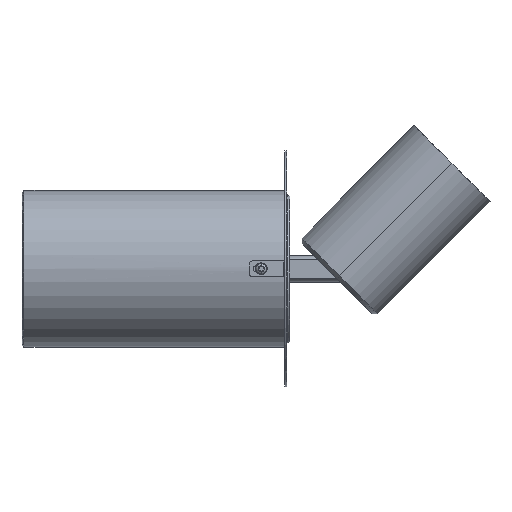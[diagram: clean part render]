
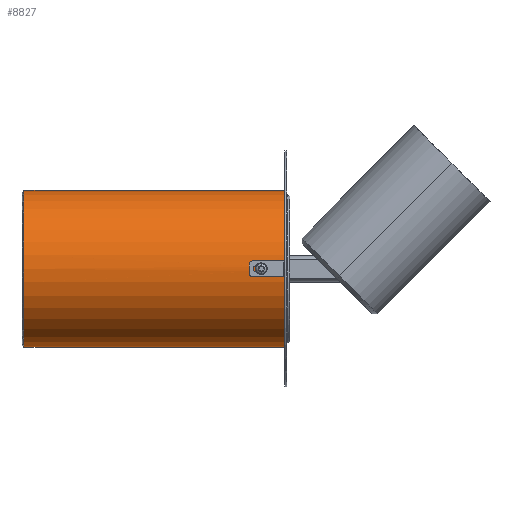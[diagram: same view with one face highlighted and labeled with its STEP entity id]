
A CAD part, left-side view. The second image highlights one B-rep face of the part: STEP entity #8827.
In plain terms, the highlighted cylindrical face has radius 39.9 mm (diameter 79.8 mm), a partial arc.
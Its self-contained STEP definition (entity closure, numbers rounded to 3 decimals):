
#423 = CIRCLE ( 'NONE', #10505, 39.9 ) ;
#575 = CARTESIAN_POINT ( 'NONE',  ( 39.881, 12.328, 1.217 ) ) ;
#630 = CARTESIAN_POINT ( 'NONE',  ( 39.888, 12.768, 1. ) ) ;
#694 = CARTESIAN_POINT ( 'NONE',  ( 39.882, 11.675, 1.21 ) ) ;
#784 = LINE ( 'NONE', #4102, #2298 ) ;
#813 = VERTEX_POINT ( 'NONE', #10591 ) ;
#908 = CARTESIAN_POINT ( 'NONE',  ( 39.88, 12., 1.25 ) ) ;
#1079 = CARTESIAN_POINT ( 'NONE',  ( 0., 0., 39.9 ) ) ;
#1289 = ORIENTED_EDGE ( 'NONE', *, *, #1375, .F. ) ;
#1375 = EDGE_CURVE ( 'NONE', #6817, #2150, #784, .T. ) ;
#1397 = CARTESIAN_POINT ( 'NONE',  ( 39.88, 12.163, 1.25 ) ) ;
#1456 = CARTESIAN_POINT ( 'NONE',  ( 39.893, 10.999, 0.767 ) ) ;
#1522 = CARTESIAN_POINT ( 'NONE',  ( 39.895, 10.908, -0.629 ) ) ;
#1531 = CARTESIAN_POINT ( 'NONE',  ( 0., 0., -39.9 ) ) ;
#1649 = ORIENTED_EDGE ( 'NONE', *, *, #8541, .T. ) ;
#1665 = AXIS2_PLACEMENT_3D ( 'NONE', #3290, #4901, #2478 ) ;
#1702 = ORIENTED_EDGE ( 'NONE', *, *, #9633, .F. ) ;
#1840 = CARTESIAN_POINT ( 'NONE',  ( 0., 132.8, 0. ) ) ;
#2150 = VERTEX_POINT ( 'NONE', #1531 ) ;
#2224 = CARTESIAN_POINT ( 'NONE',  ( 39.893, 12.999, 0.769 ) ) ;
#2275 = CARTESIAN_POINT ( 'NONE',  ( 39.895, 13.085, -0.625 ) ) ;
#2298 = VECTOR ( 'NONE', #9006, 1000. ) ;
#2342 = B_SPLINE_CURVE_WITH_KNOTS ( 'NONE', 3,
 ( #9843, #7445, #5587, #10714, #5701, #4120, #1522, #8037, #4869, #3156, #8911, #8147, #1456, #3206, #3963, #4917, #694, #3262, #4768, #3065 ),
 .UNSPECIFIED., .F., .F.,
 ( 4, 2, 2, 2, 2, 2, 2, 2, 2, 4 ),
 ( 0., 0., 0.001, 0.001, 0.002, 0.002, 0.003, 0.003, 0.004, 0.004 ),
 .UNSPECIFIED. ) ;
#2478 = DIRECTION ( 'NONE',  ( 0., 0., -1. ) ) ;
#2760 = LINE ( 'NONE', #3724, #8946 ) ;
#2816 = CARTESIAN_POINT ( 'NONE',  ( 0., 132.8, -39.9 ) ) ;
#2985 = CARTESIAN_POINT ( 'NONE',  ( 39.892, 12.942, -0.826 ) ) ;
#3032 = AXIS2_PLACEMENT_3D ( 'NONE', #6134, #10333, #5372 ) ;
#3065 = CARTESIAN_POINT ( 'NONE',  ( 39.88, 12., 1.25 ) ) ;
#3140 = ORIENTED_EDGE ( 'NONE', *, *, #6994, .T. ) ;
#3156 = CARTESIAN_POINT ( 'NONE',  ( 39.9, 10.75, 0.163 ) ) ;
#3206 = CARTESIAN_POINT ( 'NONE',  ( 39.888, 11.233, 1. ) ) ;
#3262 = CARTESIAN_POINT ( 'NONE',  ( 39.881, 11.836, 1.242 ) ) ;
#3290 = CARTESIAN_POINT ( 'NONE',  ( 0., 0., 0. ) ) ;
#3724 = CARTESIAN_POINT ( 'NONE',  ( 0., 0., 39.9 ) ) ;
#3823 = EDGE_CURVE ( 'NONE', #10453, #6739, #2342, .T. ) ;
#3963 = CARTESIAN_POINT ( 'NONE',  ( 39.885, 11.37, 1.092 ) ) ;
#4005 = CARTESIAN_POINT ( 'NONE',  ( 39.9, 13.25, -0.164 ) ) ;
#4102 = CARTESIAN_POINT ( 'NONE',  ( 0., 0., -39.9 ) ) ;
#4120 = CARTESIAN_POINT ( 'NONE',  ( 39.893, 11.001, -0.768 ) ) ;
#4205 = CYLINDRICAL_SURFACE ( 'NONE', #1665, 39.9 ) ;
#4707 = CARTESIAN_POINT ( 'NONE',  ( 39.895, 13.092, 0.631 ) ) ;
#4768 = CARTESIAN_POINT ( 'NONE',  ( 39.88, 11.918, 1.25 ) ) ;
#4843 = EDGE_LOOP ( 'NONE', ( #5603, #1649, #1702, #1289 ) ) ;
#4869 = CARTESIAN_POINT ( 'NONE',  ( 39.9, 10.75, -0.164 ) ) ;
#4901 = DIRECTION ( 'NONE',  ( 0., -1., 0. ) ) ;
#4917 = CARTESIAN_POINT ( 'NONE',  ( 39.882, 11.597, 1.186 ) ) ;
#5033 = DIRECTION ( 'NONE',  ( 0., 0., -1. ) ) ;
#5142 = DIRECTION ( 'NONE',  ( 0., -1., 0. ) ) ;
#5372 = DIRECTION ( 'NONE',  ( 0., 0., -1. ) ) ;
#5468 = CARTESIAN_POINT ( 'NONE',  ( 39.88, 12., -1.25 ) ) ;
#5528 = CARTESIAN_POINT ( 'NONE',  ( 39.885, 12.63, -1.092 ) ) ;
#5579 = CARTESIAN_POINT ( 'NONE',  ( 39.899, 13.217, 0.328 ) ) ;
#5587 = CARTESIAN_POINT ( 'NONE',  ( 39.881, 11.673, -1.217 ) ) ;
#5603 = ORIENTED_EDGE ( 'NONE', *, *, #9883, .T. ) ;
#5664 = EDGE_LOOP ( 'NONE', ( #6925, #3140 ) ) ;
#5701 = CARTESIAN_POINT ( 'NONE',  ( 39.888, 11.231, -0.999 ) ) ;
#6134 = CARTESIAN_POINT ( 'NONE',  ( 0., 0., 0. ) ) ;
#6296 = CARTESIAN_POINT ( 'NONE',  ( 39.88, 12.165, -1.25 ) ) ;
#6406 = VERTEX_POINT ( 'NONE', #1079 ) ;
#6739 = VERTEX_POINT ( 'NONE', #908 ) ;
#6817 = VERTEX_POINT ( 'NONE', #2816 ) ;
#6925 = ORIENTED_EDGE ( 'NONE', *, *, #3823, .T. ) ;
#6994 = EDGE_CURVE ( 'NONE', #6739, #10453, #8985, .T. ) ;
#7166 = CARTESIAN_POINT ( 'NONE',  ( 39.88, 12., 1.25 ) ) ;
#7216 = CARTESIAN_POINT ( 'NONE',  ( 39.899, 13.218, -0.326 ) ) ;
#7445 = CARTESIAN_POINT ( 'NONE',  ( 39.88, 11.835, -1.25 ) ) ;
#7711 = CIRCLE ( 'NONE', #3032, 39.9 ) ;
#8030 = CARTESIAN_POINT ( 'NONE',  ( 39.896, 13.124, -0.553 ) ) ;
#8037 = CARTESIAN_POINT ( 'NONE',  ( 39.899, 10.783, -0.328 ) ) ;
#8078 = CARTESIAN_POINT ( 'NONE',  ( 39.885, 12.628, 1.093 ) ) ;
#8135 = CARTESIAN_POINT ( 'NONE',  ( 39.888, 12.769, -0.999 ) ) ;
#8147 = CARTESIAN_POINT ( 'NONE',  ( 39.895, 10.908, 0.629 ) ) ;
#8448 = FACE_OUTER_BOUND ( 'NONE', #4843, .T. ) ;
#8541 = EDGE_CURVE ( 'NONE', #813, #6406, #2760, .T. ) ;
#8722 = DIRECTION ( 'NONE',  ( 0., -1., 0. ) ) ;
#8827 = ADVANCED_FACE ( 'NONE', ( #9925, #8448 ), #4205, .T. ) ;
#8853 = CARTESIAN_POINT ( 'NONE',  ( 39.881, 12.329, -1.217 ) ) ;
#8902 = CARTESIAN_POINT ( 'NONE',  ( 39.9, 13.25, 0.166 ) ) ;
#8911 = CARTESIAN_POINT ( 'NONE',  ( 39.899, 10.782, 0.326 ) ) ;
#8946 = VECTOR ( 'NONE', #8722, 1000. ) ;
#8985 = B_SPLINE_CURVE_WITH_KNOTS ( 'NONE', 3,
 ( #7166, #1397, #575, #8078, #630, #2224, #4707, #5579, #8902, #4005, #7216, #8030, #2275, #10439, #2985, #8135, #5528, #8853, #6296, #5468 ),
 .UNSPECIFIED., .F., .F.,
 ( 4, 2, 2, 2, 2, 2, 2, 2, 2, 4 ),
 ( 0.004, 0.004, 0.005, 0.005, 0.006, 0.006, 0.007, 0.007, 0.007, 0.008 ),
 .UNSPECIFIED. ) ;
#9006 = DIRECTION ( 'NONE',  ( 0., -1., 0. ) ) ;
#9170 = CARTESIAN_POINT ( 'NONE',  ( 39.88, 12., -1.25 ) ) ;
#9633 = EDGE_CURVE ( 'NONE', #2150, #6406, #7711, .T. ) ;
#9843 = CARTESIAN_POINT ( 'NONE',  ( 39.88, 12., -1.25 ) ) ;
#9883 = EDGE_CURVE ( 'NONE', #6817, #813, #423, .T. ) ;
#9925 = FACE_BOUND ( 'NONE', #5664, .T. ) ;
#10333 = DIRECTION ( 'NONE',  ( 0., -1., 0. ) ) ;
#10439 = CARTESIAN_POINT ( 'NONE',  ( 39.893, 12.995, -0.761 ) ) ;
#10453 = VERTEX_POINT ( 'NONE', #9170 ) ;
#10505 = AXIS2_PLACEMENT_3D ( 'NONE', #1840, #5142, #5033 ) ;
#10591 = CARTESIAN_POINT ( 'NONE',  ( 0., 132.8, 39.9 ) ) ;
#10714 = CARTESIAN_POINT ( 'NONE',  ( 39.885, 11.37, -1.092 ) ) ;
